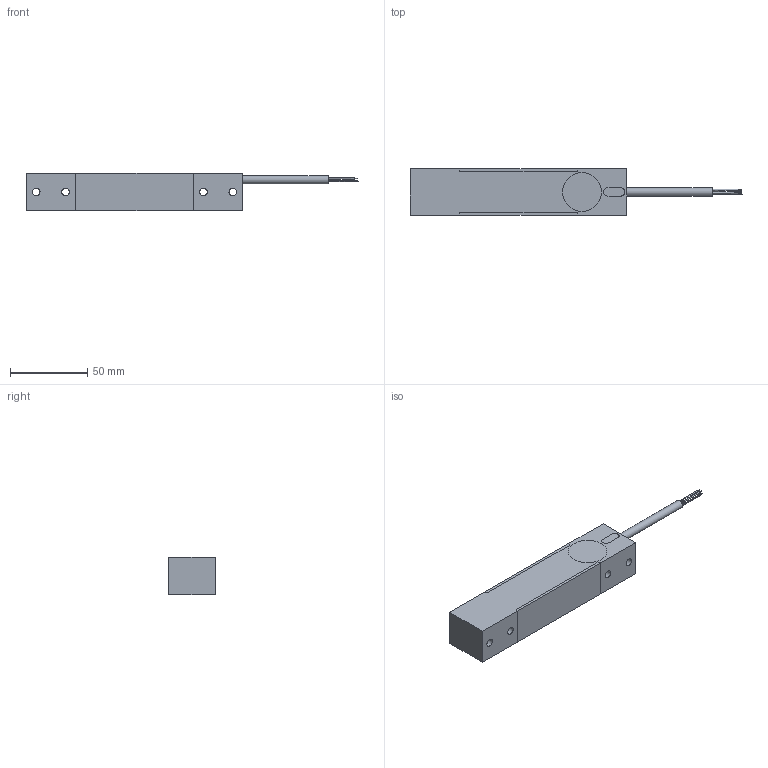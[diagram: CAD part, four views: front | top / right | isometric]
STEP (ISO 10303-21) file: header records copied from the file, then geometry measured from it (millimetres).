
FILE_DESCRIPTION(/* description */ (''),/* implementation_level */ '2;1');
FILE_NAME(/* name */ 'PC3-60KG ASSY STEP AP214 v4.step',/* time_stamp */ '2023-08-15T11:42:49+01:00',/* author */ (''),/* organization */ (''),/* preprocessor_version */ 'ST-DEVELOPER v20',/* originating_system */ 'Autodesk Translation Framework v12.9.0.99',/* authorisation */ '');
FILE_SCHEMA (('AUTOMOTIVE_DESIGN { 1 0 10303 214 3 1 1 }'));
Length unit declared in the file: millimetre
Products named in the file (5): PC3-60KG ASSY STEP AP214; 0100046; 0100047; 4 cond 24 AWG cable; Body
Assembly tree (5 placements, depth 2):
  PC3-60KG ASSY STEP AP214
    0100046
    0100047  x2
    4 cond 24 AWG cable
    Body
Bounding box: 214.22 x 30 x 24.5 mm (x, y, z)
Volume: 101753.8 mm3; surface area: 30397.6 mm2
Topology: 5 solids, 5 shells, 89 faces, 215 edges, 144 vertices
Faces by surface type: plane 50, cylinder 34, bspline 5
Full cylindrical faces by diameter (mm): 0.372 x1, 0.429 x1, 0.443 x1, 0.452 x1, 3.2 x2, 3.3 x1, 5 x4, 5.2 x1, 25 x2
Entity records: 2822 total; most frequent: CARTESIAN_POINT 671, DIRECTION 444, ORIENTED_EDGE 394, EDGE_CURVE 197, AXIS2_PLACEMENT_3D 170, VERTEX_POINT 132, EDGE_LOOP 105, LINE 104
